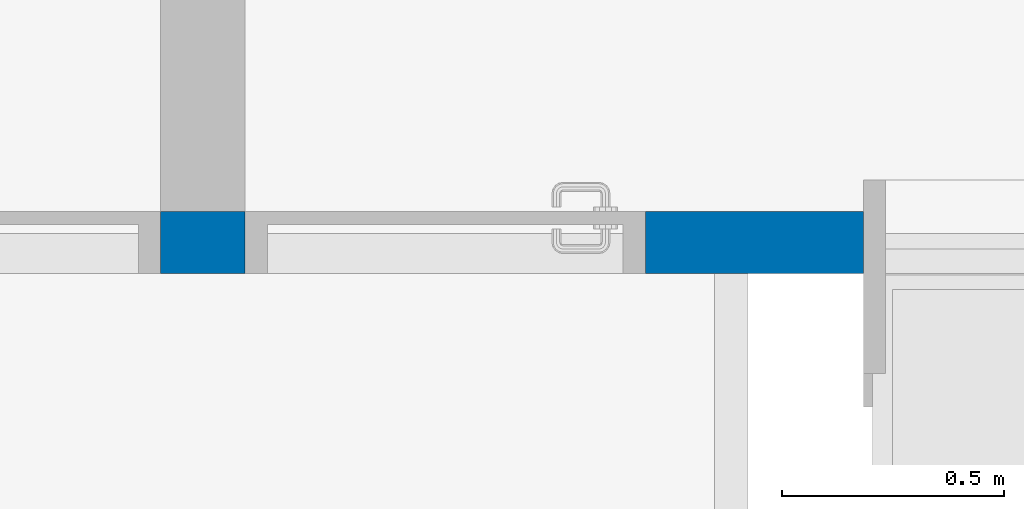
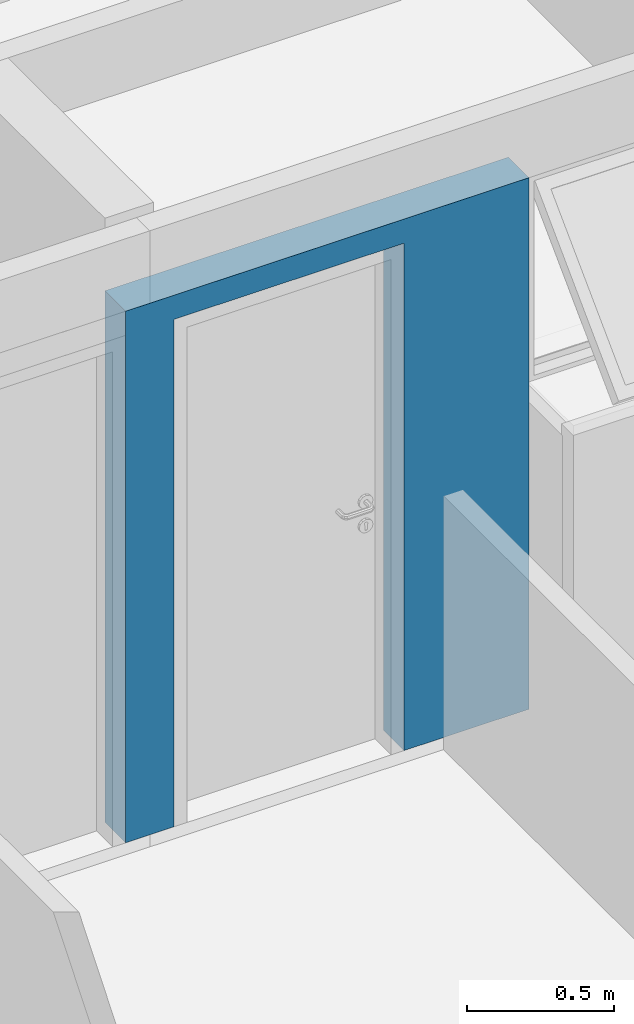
# One storey, part 22 of 37: 1 wall, 1 opening.
"""IFC2X3 building model written with IfcOpenShell, lengths in millimetres."""

from ifc_helpers import new_model, entity, si_unit, converted_unit, derived_unit, money_unit, direction, frame, origin_with_axes, origin_2d_with_axis, place, context, subcontext, project, spatial, polyline, rectangle, outline, extrude, material, layer, layer_set, layer_usage, type_object, element, save


model = new_model("IFC2X3")

# Units and contexts
model_context = context("Model", 3, precision=0.01, world=origin_with_axes(), true_north=direction((0.0, 1.0)))
body_context = subcontext(model_context, "Body", "Model", "MODEL_VIEW")
ifc_project = project(units=[si_unit("LENGTHUNIT", "METRE", prefix="MILLI"), si_unit("AREAUNIT", "SQUARE_METRE"), si_unit("VOLUMEUNIT", "CUBIC_METRE"), converted_unit("PLANEANGLEUNIT", "DEGREE", entity("IfcPlaneAngleMeasure", 0.0174532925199), si_unit("PLANEANGLEUNIT", "RADIAN"), dimensions=[0, 0, 0, 0, 0, 0, 0]), money_unit("USD"), converted_unit("TIMEUNIT", "Year", entity("IfcTimeMeasure", 31556926.0), si_unit("TIMEUNIT", "SECOND"), dimensions=[0, 0, 1, 0, 0, 0, 0]), si_unit("MASSUNIT", "GRAM", prefix="KILO"), si_unit("THERMODYNAMICTEMPERATUREUNIT", "DEGREE_CELSIUS"), si_unit("LUMINOUSINTENSITYUNIT", "LUMEN"), si_unit("ENERGYUNIT", "JOULE", prefix="MEGA"), derived_unit("THERMALCONDUCTANCEUNIT", [(si_unit("POWERUNIT", "WATT"), 1), (si_unit("LENGTHUNIT", "METRE"), -1), (si_unit("THERMODYNAMICTEMPERATUREUNIT", "KELVIN"), -1)]), derived_unit("SPECIFICHEATCAPACITYUNIT", [(si_unit("ENERGYUNIT", "JOULE"), 1), (si_unit("MASSUNIT", "GRAM", prefix="KILO"), -1), (si_unit("THERMODYNAMICTEMPERATUREUNIT", "KELVIN"), -1)]), derived_unit("MASSDENSITYUNIT", [(si_unit("MASSUNIT", "GRAM", prefix="KILO"), 1), (si_unit("VOLUMEUNIT", "CUBIC_METRE"), -1)])], contexts=[model_context])

# Site, building, storey
site_placement = place(None, origin_with_axes())
site = spatial("IfcSite", under=ifc_project, at=site_placement, Name="Local", CompositionType="ELEMENT")
building_placement = place(site_placement, origin_with_axes())
building = spatial("IfcBuilding", under=site, at=building_placement, Name="Construção", CompositionType="ELEMENT")
storey_placement = place(building_placement, frame((0.0, 0.0, 5300.0), z_axis=(0.0, 0.0, 1.0), x_axis=(1.0, 0.0, 0.0)))
storey = spatial("IfcBuildingStorey", under=building, at=storey_placement, Name="Terceiro Pavimento", CompositionType="ELEMENT", Elevation=5300.0)

# Wall, opening
ifc_material = material(Name="GENÉRICO - VEDAÇÃO EXTERNA")
ifc_layer = layer(ifc_material, 140.0, ventilated="UNKNOWN")
ifc_layer_set = layer_set([ifc_layer], Name="GENÉRICO - VEDAÇÃO EXTERNA 140")
ifc_layer_usage = layer_usage(ifc_layer_set, "AXIS2", "NEGATIVE", 0.0)
wall_type = type_object("IfcWallType", Name="GENÉRICO - VEDAÇÃO EXTERNA 140", PredefinedType="NOTDEFINED")
wall_placement = place(storey_placement, frame((7290.0, 18035.0, 0.0), z_axis=(0.0, 0.0, 1.0), x_axis=(1.0, 0.0, 0.0)))
wall = element("IfcWallStandardCase", 1, at=wall_placement, inside=storey, type_object=wall_type, material=ifc_layer_usage, Name="APTO12-PAREDE-004", context=body_context, shape_type="SweptSolid", body=[
    extrude(outline(polyline([(0.0, -140.0), (1580.0, -140.0), (1580.0, 0.0), (0.0, 0.0), (0.0, -140.0)])), origin_with_axes(), (0.0, 0.0, 1.0), 2200.0),
])
opening_placement = place(wall_placement, frame((640.0, 0.0, 0.0), z_axis=(0.0, 0.0, 1.0), x_axis=(1.0, 0.0, 0.0)))
element("IfcOpeningElement", 2, at=opening_placement, cuts=wall, Name="APTO12-PORTA-004", context=body_context, shape_type="SweptSolid", body=[
    extrude(rectangle(XDim=900.0, YDim=2100.0, at=origin_2d_with_axis()), frame((0.0, 140.0, 1050.0), z_axis=(0.0, 1.0, 0.0), x_axis=(-1.0, 0.0, 0.0)), (0.0, 0.0, -1.0), 420.0),
])

save(model, "model.ifc")
